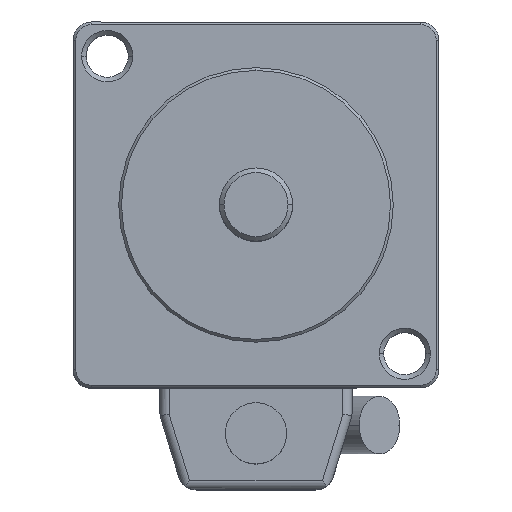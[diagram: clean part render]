
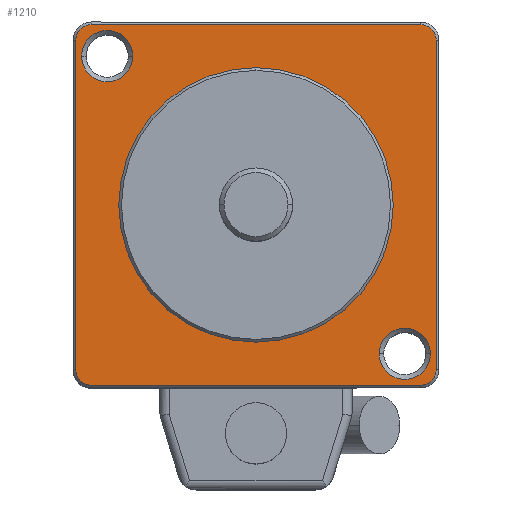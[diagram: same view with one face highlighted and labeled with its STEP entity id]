
A CAD part, top view. The second image highlights one B-rep face of the part: STEP entity #1210.
In plain terms, the highlighted planar face has unit normal (0, 0, 1).
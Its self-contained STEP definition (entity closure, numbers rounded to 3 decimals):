
#10=CARTESIAN_POINT('',(-19.7,-19.7,-14.));
#20=DIRECTION('',(0.,0.,1.));
#30=DIRECTION('',(1.,0.,0.));
#40=AXIS2_PLACEMENT_3D('',#10,#20,#30);
#50=PLANE('',#40);
#60=CARTESIAN_POINT('',(-16.263,16.263,-14.));
#70=DIRECTION('',(0.,0.,1.));
#80=DIRECTION('',(1.,0.,0.));
#90=AXIS2_PLACEMENT_3D('',#60,#70,#80);
#100=CIRCLE('',#90,2.8);
#110=CARTESIAN_POINT('',(-19.063,16.263,-14.));
#120=VERTEX_POINT('',#110);
#130=CARTESIAN_POINT('',(-13.463,16.263,-14.));
#140=VERTEX_POINT('',#130);
#150=EDGE_CURVE('',#120,#140,#100,.T.);
#160=ORIENTED_EDGE('',*,*,#150,.F.);
#170=EDGE_CURVE('',#140,#120,#100,.T.);
#180=ORIENTED_EDGE('',*,*,#170,.F.);
#190=EDGE_LOOP('',(#180,#160));
#200=FACE_BOUND('',#190,.T.);
#210=CARTESIAN_POINT('',(16.263,-16.263,-14.));
#220=DIRECTION('',(0.,0.,1.));
#230=DIRECTION('',(1.,0.,0.));
#240=AXIS2_PLACEMENT_3D('',#210,#220,#230);
#250=CIRCLE('',#240,2.8);
#260=CARTESIAN_POINT('',(13.463,-16.263,-14.));
#270=VERTEX_POINT('',#260);
#280=CARTESIAN_POINT('',(19.063,-16.263,-14.));
#290=VERTEX_POINT('',#280);
#300=EDGE_CURVE('',#270,#290,#250,.T.);
#310=ORIENTED_EDGE('',*,*,#300,.F.);
#320=EDGE_CURVE('',#290,#270,#250,.T.);
#330=ORIENTED_EDGE('',*,*,#320,.F.);
#340=EDGE_LOOP('',(#330,#310));
#350=FACE_BOUND('',#340,.T.);
#360=CARTESIAN_POINT('',(0.,0.,-14.)
);
#370=DIRECTION('',(0.,0.,1.));
#380=DIRECTION('',(1.,0.,0.));
#390=AXIS2_PLACEMENT_3D('',#360,#370,#380);
#400=CIRCLE('',#390,15.);
#410=CARTESIAN_POINT('',(-15.,0.,-14.));
#420=VERTEX_POINT('',#410);
#430=CARTESIAN_POINT('',(15.,0.,-14.));
#440=VERTEX_POINT('',#430);
#450=EDGE_CURVE('',#420,#440,#400,.T.);
#460=ORIENTED_EDGE('',*,*,#450,.F.);
#470=EDGE_CURVE('',#440,#420,#400,.T.);
#480=ORIENTED_EDGE('',*,*,#470,.F.);
#490=EDGE_LOOP('',(#480,#460));
#500=FACE_BOUND('',#490,.T.);
#510=CARTESIAN_POINT('',(-18.,18.,-14.));
#520=DIRECTION('',(0.,0.,-1.));
#530=DIRECTION('',(-1.,0.,0.));
#540=AXIS2_PLACEMENT_3D('',#510,#520,#530);
#550=CIRCLE('',#540,1.7);
#560=CARTESIAN_POINT('',(-19.7,18.,-14.));
#570=VERTEX_POINT('',#560);
#580=CARTESIAN_POINT('',(-18.,19.7,-14.));
#590=VERTEX_POINT('',#580);
#600=EDGE_CURVE('',#570,#590,#550,.T.);
#610=ORIENTED_EDGE('',*,*,#600,.F.);
#620=CARTESIAN_POINT('',(0.,19.7,-14.));
#630=DIRECTION('',(1.,0.,0.));
#640=VECTOR('',#630,1.);
#650=LINE('',#620,#640);
#660=CARTESIAN_POINT('',(18.,19.7,-14.));
#670=VERTEX_POINT('',#660);
#680=EDGE_CURVE('',#590,#670,#650,.T.);
#690=ORIENTED_EDGE('',*,*,#680,.F.);
#700=CARTESIAN_POINT('',(18.,18.,-14.));
#710=DIRECTION('',(0.,0.,-1.));
#720=DIRECTION('',(-1.,0.,0.));
#730=AXIS2_PLACEMENT_3D('',#700,#710,#720);
#740=CIRCLE('',#730,1.7);
#750=CARTESIAN_POINT('',(19.7,18.,-14.));
#760=VERTEX_POINT('',#750);
#770=EDGE_CURVE('',#670,#760,#740,.T.);
#780=ORIENTED_EDGE('',*,*,#770,.F.);
#790=CARTESIAN_POINT('',(19.7,0.,-14.));
#800=DIRECTION('',(0.,-1.,0.));
#810=VECTOR('',#800,1.);
#820=LINE('',#790,#810);
#830=CARTESIAN_POINT('',(19.7,-18.,-14.));
#840=VERTEX_POINT('',#830);
#850=EDGE_CURVE('',#760,#840,#820,.T.);
#860=ORIENTED_EDGE('',*,*,#850,.F.);
#870=CARTESIAN_POINT('',(18.,-18.,-14.));
#880=DIRECTION('',(0.,0.,-1.));
#890=DIRECTION('',(-1.,0.,0.));
#900=AXIS2_PLACEMENT_3D('',#870,#880,#890);
#910=CIRCLE('',#900,1.7);
#920=CARTESIAN_POINT('',(18.,-19.7,-14.));
#930=VERTEX_POINT('',#920);
#940=EDGE_CURVE('',#840,#930,#910,.T.);
#950=ORIENTED_EDGE('',*,*,#940,.F.);
#960=CARTESIAN_POINT('',(0.,-19.7,-14.));
#970=DIRECTION('',(-1.,0.,0.));
#980=VECTOR('',#970,1.);
#990=LINE('',#960,#980);
#1000=CARTESIAN_POINT('',(-18.,-19.7,-14.));
#1010=VERTEX_POINT('',#1000);
#1020=EDGE_CURVE('',#930,#1010,#990,.T.);
#1030=ORIENTED_EDGE('',*,*,#1020,.F.);
#1040=CARTESIAN_POINT('',(-18.,-18.,-14.));
#1050=DIRECTION('',(0.,0.,-1.));
#1060=DIRECTION('',(-1.,0.,0.));
#1070=AXIS2_PLACEMENT_3D('',#1040,#1050,#1060);
#1080=CIRCLE('',#1070,1.7);
#1090=CARTESIAN_POINT('',(-19.7,-18.,-14.));
#1100=VERTEX_POINT('',#1090);
#1110=EDGE_CURVE('',#1010,#1100,#1080,.T.);
#1120=ORIENTED_EDGE('',*,*,#1110,.F.);
#1130=CARTESIAN_POINT('',(-19.7,0.,-14.));
#1140=DIRECTION('',(0.,1.,0.));
#1150=VECTOR('',#1140,1.);
#1160=LINE('',#1130,#1150);
#1170=EDGE_CURVE('',#1100,#570,#1160,.T.);
#1180=ORIENTED_EDGE('',*,*,#1170,.F.);
#1190=EDGE_LOOP('',(#1180,#1120,#1030,#950,#860,#780,#690,#610));
#1200=FACE_OUTER_BOUND('',#1190,.T.);
#1210=ADVANCED_FACE('',(#200,#350,#500,#1200),#50,.T.);
